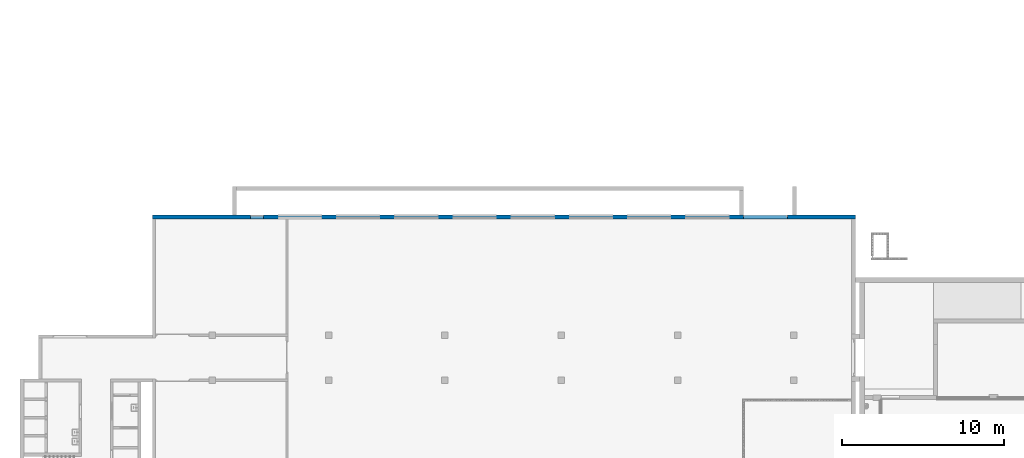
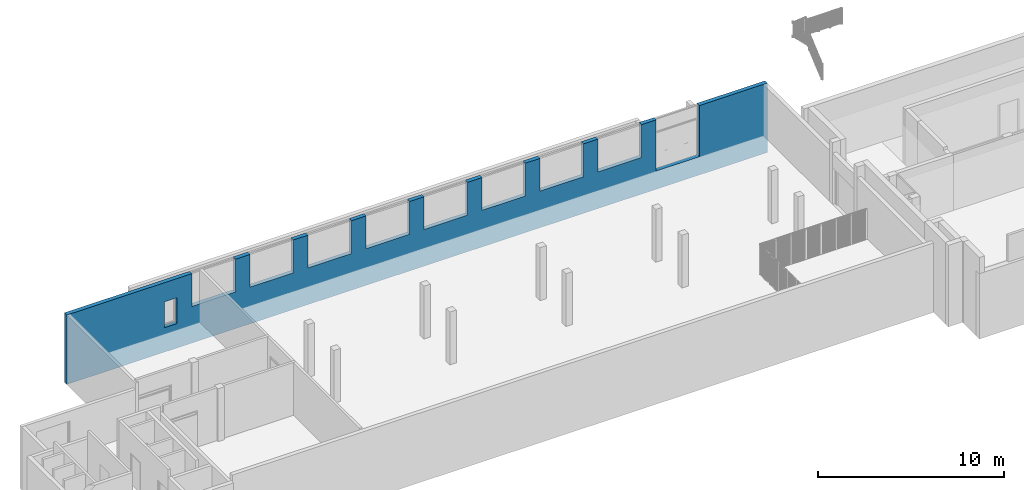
# One storey, part 80 of 135: 1 wall, 11 openings.
"""IFC2X3 building model written with IfcOpenShell, lengths in millimetres."""

from ifc_helpers import new_model, entity, si_unit, converted_unit, derived_unit, money_unit, direction, frame, origin_with_axes, place, context, subcontext, project, spatial, faceted_brep, material, type_object, element, save


model = new_model("IFC2X3")

# Units and contexts
model_context = context("Model", 3, precision=0.01, world=origin_with_axes(), true_north=direction((0.0, 1.0)))
body_context = subcontext(model_context, "Body", "Model", "MODEL_VIEW")
ifc_project = project(units=[si_unit("LENGTHUNIT", "METRE", prefix="MILLI"), si_unit("AREAUNIT", "SQUARE_METRE"), si_unit("VOLUMEUNIT", "CUBIC_METRE"), converted_unit("PLANEANGLEUNIT", "DEGREE", entity("IfcPlaneAngleMeasure", 0.0174532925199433), si_unit("PLANEANGLEUNIT", "RADIAN"), dimensions=[0, 0, 0, 0, 0, 0, 0]), money_unit("EUR"), converted_unit("TIMEUNIT", "Year", entity("IfcTimeMeasure", 31557600.0), si_unit("TIMEUNIT", "SECOND"), dimensions=[0, 0, 1, 0, 0, 0, 0]), si_unit("MASSUNIT", "GRAM", prefix="KILO"), si_unit("THERMODYNAMICTEMPERATUREUNIT", "DEGREE_CELSIUS"), si_unit("LUMINOUSINTENSITYUNIT", "LUMEN"), si_unit("ENERGYUNIT", "JOULE", prefix="MEGA"), derived_unit("THERMALCONDUCTANCEUNIT", [(si_unit("POWERUNIT", "WATT"), 1), (si_unit("LENGTHUNIT", "METRE"), -1), (si_unit("THERMODYNAMICTEMPERATUREUNIT", "KELVIN"), -1)]), derived_unit("SPECIFICHEATCAPACITYUNIT", [(si_unit("ENERGYUNIT", "JOULE"), 1), (si_unit("MASSUNIT", "GRAM", prefix="KILO"), -1), (si_unit("THERMODYNAMICTEMPERATUREUNIT", "KELVIN"), -1)]), derived_unit("MASSDENSITYUNIT", [(si_unit("MASSUNIT", "GRAM", prefix="KILO"), 1), (si_unit("VOLUMEUNIT", "CUBIC_METRE"), -1)])], contexts=[model_context])

# Site, building, storey
site_placement = place(None, origin_with_axes())
site = spatial("IfcSite", under=ifc_project, at=site_placement, Name="Site", CompositionType="ELEMENT")
building_placement = place(site_placement, origin_with_axes())
building = spatial("IfcBuilding", under=site, at=building_placement, Name="Naam gebouw", CompositionType="ELEMENT")
storey_placement = place(building_placement, origin_with_axes())
storey = spatial("IfcBuildingStorey", under=building, at=storey_placement, Name="Begane grond N", CompositionType="ELEMENT", Elevation=0.0)

# Wall, openings
ifc_material = material(Name="ALG - CONSTRUCTIEF")
wall_type = type_object("IfcWallType", Name="ALG - CONSTRUCTIEF 250", PredefinedType="NOTDEFINED")
wall_placement = place(storey_placement, frame((-1599.999999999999, 23965.57502437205, -1200.0), z_axis=(0.0, 0.0, 1.0), x_axis=(-1.0, 0.0, 0.0)))
wall = element("IfcWall", 1, at=wall_placement, inside=storey, type_object=wall_type, material=ifc_material, Name="_Wand-x", context=body_context, shape_type="Brep", body=[
    faceted_brep([(3964.279644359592, 3.765876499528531e-10, 1200.0), (3964.279644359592, 3.765876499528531e-10, 2410.0), (3964.279644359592, 3.765876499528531e-10, 4560.000000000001), (3964.279644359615, -249.9999999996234, 4560.000000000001), (3964.279644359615, -249.9999999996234, 1200.0), (6664.279644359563, 6.323830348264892e-10, 1200.0), (6664.279644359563, 6.323830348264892e-10, 2410.0), (6664.279644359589, 6.323830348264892e-10, 4560.000000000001), (7564.279644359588, 7.176481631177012e-10, 4560.000000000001), (7564.279644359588, 7.176481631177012e-10, 2410.0), (10264.27964435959, 9.734435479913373e-10, 2410.0), (10264.27964435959, 9.734435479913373e-10, 4560.000000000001), (11164.27964435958, 1.058708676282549e-09, 4560.000000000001), (11164.27964435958, 1.058708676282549e-09, 2410.0), (13864.27964435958, 1.318056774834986e-09, 2410.0), (13864.27964435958, 1.318056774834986e-09, 4560.000000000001), (14764.27964435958, 1.403321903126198e-09, 4560.000000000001), (14764.27964435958, 1.403321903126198e-09, 2410.0), (17464.27964435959, 1.659117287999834e-09, 2410.0), (17464.27964435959, 1.659117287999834e-09, 4560.000000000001), (18364.27964435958, 1.744382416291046e-09, 4560.000000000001), (18364.27964435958, 1.744382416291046e-09, 2410.0), (21064.27964435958, 2.000177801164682e-09, 2410.0), (21064.27964435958, 2.000177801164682e-09, 4560.000000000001), (21964.27964435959, 2.085442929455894e-09, 4560.000000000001), (21964.27964435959, 2.085442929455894e-09, 2410.0), (24664.27964435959, 2.34123831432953e-09, 2410.0), (24664.27964435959, 2.34123831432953e-09, 4560.000000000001), (25579.34748621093, 2.430056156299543e-09, 4560.000000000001), (25579.34748621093, 2.430056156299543e-09, 2410.0), (28279.34748621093, 2.685851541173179e-09, 2410.0), (28279.34748621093, 2.685851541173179e-09, 4560.000000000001), (29179.34748621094, 2.771116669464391e-09, 4560.000000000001), (29179.34748621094, 2.771116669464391e-09, 2410.0), (31879.34748621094, 3.026912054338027e-09, 2410.0), (31879.34748621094, 3.026912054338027e-09, 4560.000000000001), (32779.34740269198, 3.112177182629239e-09, 4560.000000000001), (32779.34740269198, 3.112177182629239e-09, 2410.0), (35479.34740269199, 3.371525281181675e-09, 2410.0), (35479.34740269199, 3.371525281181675e-09, 4560.000000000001), (43250.0000001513, 4.103384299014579e-09, 4560.000000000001), (43250.0000001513, 4.103384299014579e-09, 0.0), (-250.0000011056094, 0.0, 0.0), (-250.0000011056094, 0.0, 4560.000000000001), (37195.18593183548, 3.534950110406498e-09, 1600.0), (37195.18593183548, 3.534950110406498e-09, 3300.000000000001), (36395.18593183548, 3.456790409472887e-09, 3300.000000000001), (36395.18593183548, 3.456790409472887e-09, 1600.0), (-250.0000011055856, -250.0000000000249, 4560.000000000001), (7564.279644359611, -249.9999999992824, 4560.000000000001), (6664.279644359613, -249.9999999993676, 4560.000000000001), (6664.279644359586, -249.9999999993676, 1200.0), (-250.0000011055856, -250.0000000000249, 0.0), (43250.00000015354, -249.9999999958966, 0.0), (43250.00000015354, -249.9999999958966, 4560.000000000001), (35479.34740269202, -249.9999999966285, 4560.000000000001), (35479.34740269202, -249.9999999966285, 2410.0), (32779.34740269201, -249.9999999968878, 2410.0), (32779.34740269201, -249.9999999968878, 4560.000000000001), (31879.34748621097, -249.9999999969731, 4560.000000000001), (31879.34748621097, -249.9999999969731, 2410.0), (29179.34748621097, -249.9999999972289, 2410.0), (29179.34748621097, -249.9999999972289, 4560.000000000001), (28279.34748621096, -249.9999999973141, 4560.000000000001), (28279.34748621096, -249.9999999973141, 2410.0), (25579.34748621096, -249.9999999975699, 2410.0), (25579.34748621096, -249.9999999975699, 4560.000000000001), (24664.27964435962, -249.9999999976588, 4560.000000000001), (24664.27964435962, -249.9999999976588, 2410.0), (21964.27964435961, -249.9999999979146, 2410.0), (21964.27964435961, -249.9999999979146, 4560.000000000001), (21064.27964435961, -249.9999999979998, 4560.000000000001), (21064.27964435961, -249.9999999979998, 2410.0), (18364.27964435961, -249.9999999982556, 2410.0), (18364.27964435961, -249.9999999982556, 4560.000000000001), (17464.27964435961, -249.9999999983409, 4560.000000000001), (17464.27964435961, -249.9999999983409, 2410.0), (14764.27964435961, -249.9999999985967, 2410.0), (14764.27964435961, -249.9999999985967, 4560.000000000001), (13864.2796443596, -249.9999999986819, 4560.000000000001), (13864.2796443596, -249.9999999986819, 2410.0), (11164.27964435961, -249.9999999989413, 2410.0), (11164.27964435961, -249.9999999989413, 4560.000000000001), (10264.27964435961, -249.9999999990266, 4560.000000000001), (10264.27964435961, -249.9999999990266, 2410.0), (7564.279644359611, -249.9999999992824, 2410.0), (37195.18593183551, -249.999999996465, 1600.0), (36395.18593183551, -249.9999999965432, 1600.0), (36395.18593183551, -249.9999999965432, 3300.000000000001), (37195.18593183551, -249.999999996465, 3300.000000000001)], [[[0, 1, 2, 3, 4]], [[5, 6, 7, 8, 9, 10, 11, 12, 13, 14, 15, 16, 17, 18, 19, 20, 21, 22, 23, 24, 25, 26, 27, 28, 29, 30, 31, 32, 33, 34, 35, 36, 37, 38, 39, 40, 41, 42, 43, 2, 1, 0], [44, 45, 46, 47]], [[48, 3, 2, 43]], [[49, 50, 51, 4, 3, 48, 52, 53, 54, 55, 56, 57, 58, 59, 60, 61, 62, 63, 64, 65, 66, 67, 68, 69, 70, 71, 72, 73, 74, 75, 76, 77, 78, 79, 80, 81, 82, 83, 84, 85], [86, 87, 88, 89]], [[51, 5, 0, 4]], [[51, 50, 7, 6, 5]], [[8, 7, 50, 49]], [[9, 8, 49, 85]], [[9, 85, 84, 10]], [[10, 84, 83, 11]], [[11, 83, 82, 12]], [[81, 13, 12, 82]], [[14, 13, 81, 80]], [[15, 14, 80, 79]], [[15, 79, 78, 16]], [[77, 17, 16, 78]], [[18, 17, 77, 76]], [[19, 18, 76, 75]], [[74, 20, 19, 75]], [[74, 73, 21, 20]], [[72, 22, 21, 73]], [[71, 23, 22, 72]], [[70, 24, 23, 71]], [[24, 70, 69, 25]], [[69, 68, 26, 25]], [[68, 67, 27, 26]], [[67, 66, 28, 27]], [[29, 28, 66, 65]], [[29, 65, 64, 30]], [[30, 64, 63, 31]], [[31, 63, 62, 32]], [[61, 33, 32, 62]], [[34, 33, 61, 60]], [[35, 34, 60, 59]], [[36, 35, 59, 58]], [[58, 57, 37, 36]], [[56, 38, 37, 57]], [[55, 39, 38, 56]], [[55, 54, 40, 39]], [[53, 41, 40, 54]], [[41, 53, 52, 42]], [[43, 42, 52, 48]], [[86, 89, 45, 44]], [[89, 88, 46, 45]], [[88, 87, 47, 46]], [[87, 86, 44, 47]]]),
])
opening_1_placement = place(wall_placement, frame((8914.27964435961, -8.455458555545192e-10, 2410.0), z_axis=(0.0, 0.0, 1.0), x_axis=(1.0, 0.0, 0.0)))
element("IfcOpeningElement", 2, at=opening_1_placement, cuts=wall, Name="_Merk-x", context=body_context, shape_type="Brep", body=[
    faceted_brep([(1349.999999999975, 1.000000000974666, 2150.0), (1349.999999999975, 1.000000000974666, 0.0), (-1350.000000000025, 1.00000000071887, 0.0), (-1350.000000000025, 1.00000000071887, 2150.0), (1349.999999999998, -251.0000000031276, 2150.0), (1349.999999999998, -251.0000000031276, 0.0), (-1350.000000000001, -251.0000000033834, 0.0), (-1350.000000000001, -251.0000000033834, 2150.0)], [[[0, 1, 2, 3]], [[4, 5, 1, 0]], [[5, 6, 2, 1]], [[6, 7, 3, 2]], [[7, 4, 0, 3]], [[6, 5, 4, 7]]]),
])
opening_2_placement = place(wall_placement, frame((12514.27964435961, -1.190159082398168e-09, 2410.0), z_axis=(0.0, 0.0, 1.0), x_axis=(1.0, 0.0, 0.0)))
element("IfcOpeningElement", 3, at=opening_2_placement, cuts=wall, Name="_Merk-x", context=body_context, shape_type="Brep", body=[
    faceted_brep([(1349.999999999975, 1.000000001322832, 2150.0), (1349.999999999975, 1.000000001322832, 0.0), (-1350.000000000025, 1.000000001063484, 0.0), (-1350.000000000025, 1.000000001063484, 2150.0), (1349.999999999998, -251.0000000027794, 2150.0), (1349.999999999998, -251.0000000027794, 0.0), (-1350.000000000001, -251.0000000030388, 0.0), (-1350.000000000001, -251.0000000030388, 2150.0)], [[[0, 1, 2, 3]], [[4, 5, 1, 0]], [[5, 6, 2, 1]], [[6, 7, 3, 2]], [[7, 4, 0, 3]], [[6, 5, 4, 7]]]),
])
opening_3_placement = place(wall_placement, frame((19714.2796443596, -1.872280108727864e-09, 2410.0), z_axis=(0.0, 0.0, 1.0), x_axis=(1.0, 0.0, 0.0)))
element("IfcOpeningElement", 4, at=opening_3_placement, cuts=wall, Name="_Merk-x", context=body_context, shape_type="Brep", body=[
    faceted_brep([(1349.99999999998, 1.0000000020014, 2150.0), (1349.99999999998, 1.0000000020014, 0.0), (-1350.000000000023, 1.000000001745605, 0.0), (-1350.000000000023, 1.000000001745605, 2150.0), (1350.000000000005, -251.0000000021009, 2150.0), (1350.000000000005, -251.0000000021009, 0.0), (-1349.999999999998, -251.0000000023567, 0.0), (-1349.999999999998, -251.0000000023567, 2150.0)], [[[0, 1, 2, 3]], [[4, 5, 1, 0]], [[5, 6, 2, 1]], [[6, 7, 3, 2]], [[7, 4, 0, 3]], [[6, 5, 4, 7]]]),
])
opening_4_placement = place(wall_placement, frame((23314.27964435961, -2.216893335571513e-09, 2410.0), z_axis=(0.0, 0.0, 1.0), x_axis=(1.0, 0.0, 0.0)))
element("IfcOpeningElement", 5, at=opening_4_placement, cuts=wall, Name="_Merk-x", context=body_context, shape_type="Brep", body=[
    faceted_brep([(1349.99999999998, 1.000000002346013, 2150.0), (1349.99999999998, 1.000000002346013, 0.0), (-1350.000000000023, 1.000000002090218, 0.0), (-1350.000000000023, 1.000000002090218, 2150.0), (1350.000000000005, -251.0000000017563, 2150.0), (1350.000000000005, -251.0000000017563, 0.0), (-1349.999999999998, -251.0000000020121, 0.0), (-1349.999999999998, -251.0000000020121, 2150.0)], [[[0, 1, 2, 3]], [[4, 5, 1, 0]], [[5, 6, 2, 1]], [[6, 7, 3, 2]], [[7, 4, 0, 3]], [[6, 5, 4, 7]]]),
])
opening_5_placement = place(wall_placement, frame((26929.34748621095, -2.557953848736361e-09, 2410.0), z_axis=(0.0, 0.0, 1.0), x_axis=(1.0, 0.0, 0.0)))
element("IfcOpeningElement", 6, at=opening_5_placement, cuts=wall, Name="_Merk-x", context=body_context, shape_type="Brep", body=[
    faceted_brep([(1349.99999999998, 1.000000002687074, 2150.0), (1349.99999999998, 1.000000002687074, 0.0), (-1350.000000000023, 1.000000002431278, 0.0), (-1350.000000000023, 1.000000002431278, 2150.0), (1350.000000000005, -251.0000000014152, 2150.0), (1350.000000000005, -251.0000000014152, 0.0), (-1349.999999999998, -251.000000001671, 0.0), (-1349.999999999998, -251.000000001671, 2150.0)], [[[0, 1, 2, 3]], [[4, 5, 1, 0]], [[5, 6, 2, 1]], [[6, 7, 3, 2]], [[7, 4, 0, 3]], [[6, 5, 4, 7]]]),
])
opening_6_placement = place(wall_placement, frame((30529.34748621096, -2.899014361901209e-09, 2410.0), z_axis=(0.0, 0.0, 1.0), x_axis=(1.0, 0.0, 0.0)))
element("IfcOpeningElement", 7, at=opening_6_placement, cuts=wall, Name="_Merk-x", context=body_context, shape_type="Brep", body=[
    faceted_brep([(1349.99999999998, 1.000000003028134, 2150.0), (1349.99999999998, 1.000000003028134, 0.0), (-1350.000000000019, 1.000000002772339, 0.0), (-1350.000000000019, 1.000000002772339, 2150.0), (1350.000000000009, -251.0000000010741, 2150.0), (1350.000000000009, -251.0000000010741, 0.0), (-1349.999999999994, -251.0000000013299, 0.0), (-1349.999999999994, -251.0000000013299, 2150.0)], [[[0, 1, 2, 3]], [[4, 5, 1, 0]], [[5, 6, 2, 1]], [[6, 7, 3, 2]], [[7, 4, 0, 3]], [[6, 5, 4, 7]]]),
])
opening_7_placement = place(wall_placement, frame((34129.34740269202, -3.243627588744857e-09, 2410.0), z_axis=(0.0, 0.0, 1.0), x_axis=(1.0, 0.0, 0.0)))
element("IfcOpeningElement", 8, at=opening_7_placement, cuts=wall, Name="_", context=body_context, shape_type="Brep", body=[
    faceted_brep([(1349.999999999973, 1.000000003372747, 2150.0), (1349.999999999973, 1.000000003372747, 0.0), (-1350.00000000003, 1.000000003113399, 0.0), (-1350.00000000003, 1.000000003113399, 2150.0), (1350.000000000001, -251.0000000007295, 2150.0), (1350.000000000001, -251.0000000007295, 0.0), (-1350.000000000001, -251.0000000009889, 0.0), (-1350.000000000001, -251.0000000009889, 2150.0)], [[[0, 1, 2, 3]], [[4, 5, 1, 0]], [[5, 6, 2, 1]], [[6, 7, 3, 2]], [[7, 4, 0, 3]], [[6, 5, 4, 7]]]),
])
opening_8_placement = place(wall_placement, frame((36795.18593183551, -3.495870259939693e-09, 1600.0), z_axis=(0.0, 0.0, 1.0), x_axis=(1.0, 0.0, 0.0)))
element("IfcOpeningElement", 9, at=opening_8_placement, cuts=wall, Name="_Merk-", context=body_context, shape_type="Brep", body=[
    faceted_brep([(399.9999999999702, 1.000000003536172, 1700.0), (399.9999999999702, 1.000000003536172, 0.0), (-400.000000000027, 1.000000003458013, 0.0), (-400.000000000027, 1.000000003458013, 1700.0), (399.9999999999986, -251.0000000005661, 1700.0), (399.9999999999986, -251.0000000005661, 0.0), (-399.9999999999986, -251.0000000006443, 0.0), (-399.9999999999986, -251.0000000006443, 1700.0)], [[[0, 1, 2, 3]], [[4, 5, 1, 0]], [[5, 6, 2, 1]], [[6, 7, 3, 2]], [[7, 4, 0, 3]], [[6, 5, 4, 7]]]),
])
opening_9_placement = place(wall_placement, frame((5314.279644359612, -5.044853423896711e-10, 2410.0), z_axis=(0.0, 0.0, 1.0), x_axis=(1.0, 0.0, 0.0)))
element("IfcOpeningElement", 10, at=opening_9_placement, cuts=wall, Name="_Merk-x", context=body_context, shape_type="Brep", body=[
    faceted_brep([(1349.999999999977, 1.000000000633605, 2150.0), (1349.999999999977, 1.000000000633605, 0.0), (-1350.000000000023, 1.00000000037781, 0.0), (-1350.000000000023, 1.00000000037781, 2150.0), (1350.0, -251.0000000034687, 2150.0), (1350.0, -251.0000000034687, 0.0), (-1349.999999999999, -251.0000000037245, 0.0), (-1349.999999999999, -251.0000000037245, 2150.0)], [[[0, 1, 2, 3]], [[4, 5, 1, 0]], [[5, 6, 2, 1]], [[6, 7, 3, 2]], [[7, 4, 0, 3]], [[6, 5, 4, 7]]]),
])
opening_10_placement = place(wall_placement, frame((16114.27964435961, -1.531219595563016e-09, 2410.0), z_axis=(0.0, 0.0, 1.0), x_axis=(1.0, 0.0, 0.0)))
element("IfcOpeningElement", 11, at=opening_10_placement, cuts=wall, Name="_Merk-x", context=body_context, shape_type="Brep", body=[
    faceted_brep([(1349.99999999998, 1.000000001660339, 2150.0), (1349.99999999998, 1.000000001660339, 0.0), (-1350.000000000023, 1.000000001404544, 0.0), (-1350.000000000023, 1.000000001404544, 2150.0), (1350.000000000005, -251.0000000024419, 2150.0), (1350.000000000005, -251.0000000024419, 0.0), (-1349.999999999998, -251.0000000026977, 0.0), (-1349.999999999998, -251.0000000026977, 2150.0)], [[[0, 1, 2, 3]], [[4, 5, 1, 0]], [[5, 6, 2, 1]], [[6, 7, 3, 2]], [[7, 4, 0, 3]], [[6, 5, 4, 7]]]),
])
opening_11_placement = place(wall_placement, frame((5314.2796443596, -5.044853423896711e-10, 1200.0), z_axis=(0.0, 0.0, 1.0), x_axis=(1.0, 0.0, 0.0)))
element("IfcOpeningElement", 12, at=opening_11_placement, cuts=wall, Name="_Merk-F001", context=body_context, shape_type="Brep", body=[
    faceted_brep([(1349.999999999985, -239.9999999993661, 0.0), (1349.999999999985, -239.9999999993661, 3360.0), (1349.999999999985, -251.0000000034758, 3360.0), (1349.999999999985, -251.0000000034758, 0.0), (1349.999999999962, 1.000000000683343, 0.0), (1349.999999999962, 1.000000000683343, 3360.0), (-1349.999999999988, -239.9999999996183, 3360.0), (-1349.999999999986, -251.000000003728, 3360.0), (-1350.00000000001, 1.0000000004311, 3360.0), (-1349.999999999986, -251.000000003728, 0.0), (-1349.999999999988, -239.9999999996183, 0.0), (-1350.00000000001, 1.0000000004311, 0.0)], [[[0, 1, 2, 3]], [[1, 0, 4, 5]], [[6, 7, 2, 1, 5, 8]], [[7, 9, 3, 2]], [[0, 3, 9, 10, 11, 4]], [[5, 4, 11, 8]], [[6, 10, 9, 7]], [[10, 6, 8, 11]]]),
])

save(model, "model.ifc")
